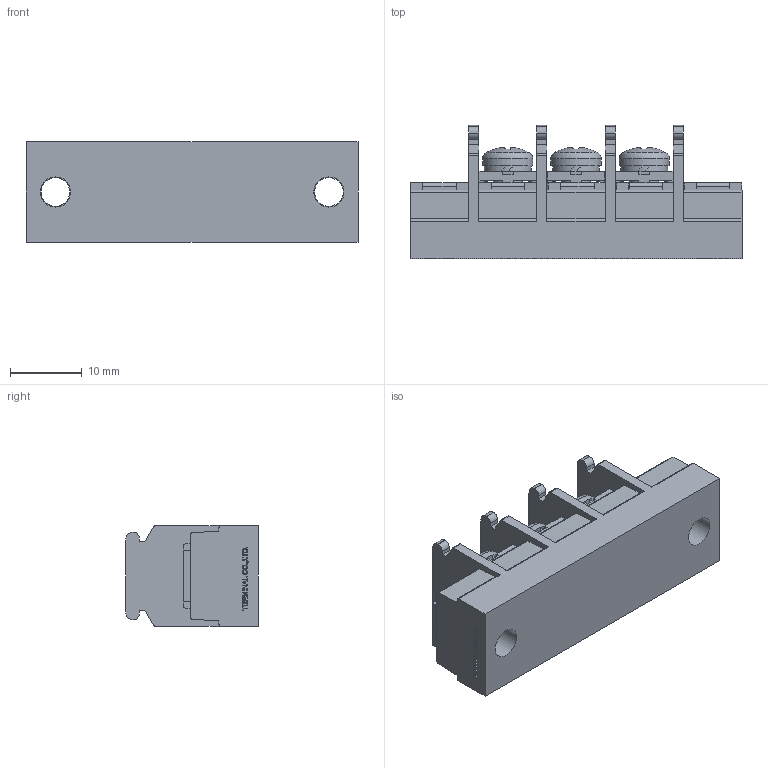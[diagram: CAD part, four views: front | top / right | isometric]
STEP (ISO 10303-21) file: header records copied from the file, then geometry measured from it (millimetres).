
FILE_DESCRIPTION(/* description */ ('Alibre Inc.'),/* implementation_level */ '2;1');
FILE_NAME(/* name */ 'export-950B390E-13D2-408B-A3A9-579A815E11CB',/* time_stamp */ '2021-02-13T15:47:14+09:00',/* author */ (''),/* organization */ (''),/* preprocessor_version */ 'ST-DEVELOPER v17',/* originating_system */ 'Alibre',/* authorisation */ '');
FILE_SCHEMA (('CONFIG_CONTROL_DESIGN'));
Length unit declared in the file: millimetre
Bounding box: 46.2 x 18.5 x 14 mm (x, y, z)
Volume: 7043.5 mm3; surface area: 4738.1 mm2
Topology: 1 solids, 20 shells, 793 faces, 2191 edges, 1451 vertices
Faces by surface type: plane 584, bspline 104, cylinder 81, cone 15, torus 6, sphere 3
Full cylindrical faces by diameter (mm): 4 x8, 4.2 x2, 7 x3
Entity records: 24200 total; most frequent: CARTESIAN_POINT 5340, ORIENTED_EDGE 4322, DIRECTION 2900, EDGE_CURVE 2161, VECTOR 1612, LINE 1612, VERTEX_POINT 1443, AXIS2_PLACEMENT_3D 917
